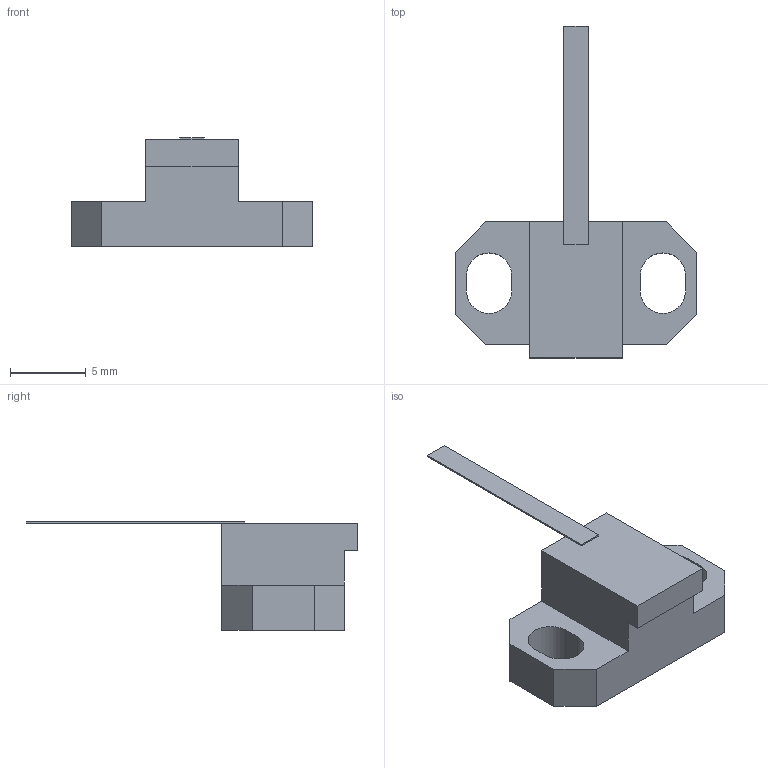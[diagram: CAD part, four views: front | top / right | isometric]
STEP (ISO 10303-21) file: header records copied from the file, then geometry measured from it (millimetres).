
FILE_DESCRIPTION(('STEP AP203'), '1');
FILE_NAME('櫻蠉錪', '', ('UNSPECIFIED'), ('UNSPECIFIED'), 'ASCON STEP Converter 1.6', 'ASCON Math Kernel', '');
FILE_SCHEMA(('CONFIG_CONTROL_DESIGN'));
Length unit declared in the file: millimetre
Bounding box: 16 x 21.95 x 7.2 mm (x, y, z)
Volume: 518.6 mm3; surface area: 601.4 mm2
Topology: 1 solids, 2 shells, 49 faces, 133 edges, 88 vertices
Faces by surface type: plane 41, cylinder 8
Entity records: 1973 total; most frequent: CARTESIAN_POINT 271, ORIENTED_EDGE 266, DIRECTION 249, EDGE_CURVE 133, LINE 117, VECTOR 117, VERTEX_POINT 88, AXIS2_PLACEMENT_3D 66
